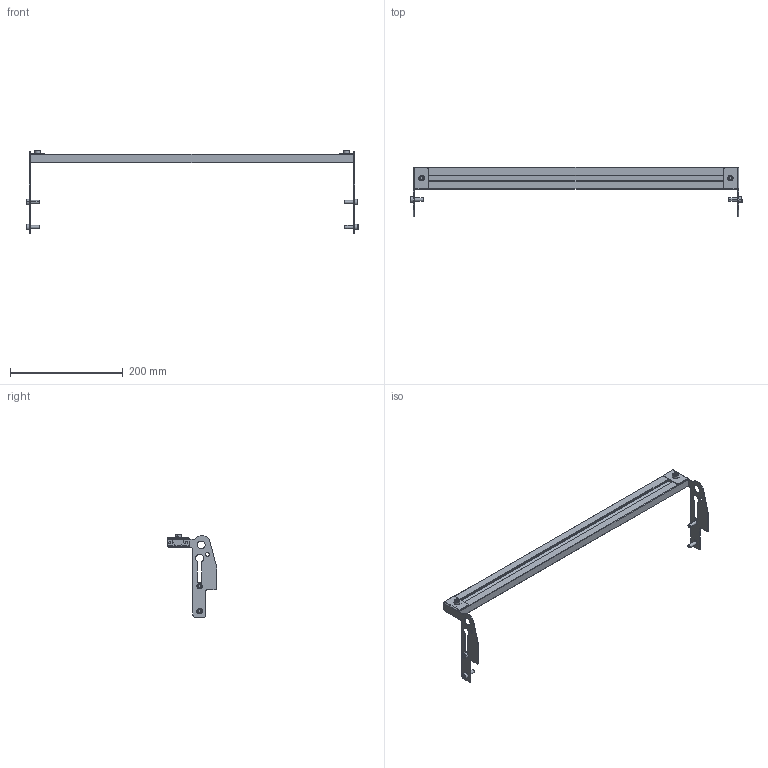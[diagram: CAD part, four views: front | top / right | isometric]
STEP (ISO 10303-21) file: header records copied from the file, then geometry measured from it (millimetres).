
FILE_DESCRIPTION (( 'STEP AP203' ), '1' );
FILE_NAME ('207213-22.STEP', '2016-10-27T17:50:33', ( '' ), ( '' ), 'SwSTEP 2.0', 'SolidWorks 2015', '' );
FILE_SCHEMA (( 'CONFIG_CONTROL_DESIGN' ));
Length unit declared in the file: inch
Products named in the file (7): 207216-WW_207216-22; 207213-22; 9206XXM_920618M; 207130-RH; 834-FASN-M6; 9206XXM_920612M; 207130-LH
Assembly tree (11 placements, depth 2):
  207213-22
    207130-RH
    207216-WW_207216-22
    834-FASN-M6  x2
    9206XXM_920612M  x2
    207130-LH
    9206XXM_920618M  x4
Bounding box: 590.15 x 88.64 x 147.81 mm (x, y, z)
Volume: 180605.9 mm3; surface area: 165979.7 mm2
Topology: 11 solids, 11 shells, 344 faces, 818 edges, 508 vertices
Faces by surface type: plane 146, cylinder 132, cone 66
Entity records: 8315 total; most frequent: CARTESIAN_POINT 1380, DIRECTION 1348, ORIENTED_EDGE 1224, EDGE_CURVE 612, AXIS2_PLACEMENT_3D 500, VERTEX_POINT 392, VECTOR 348, LINE 348
